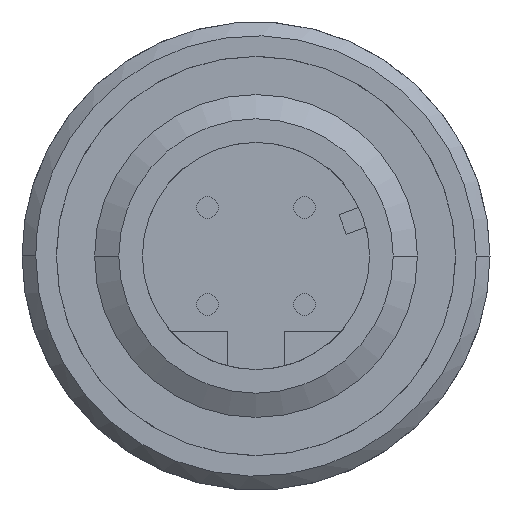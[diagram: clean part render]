
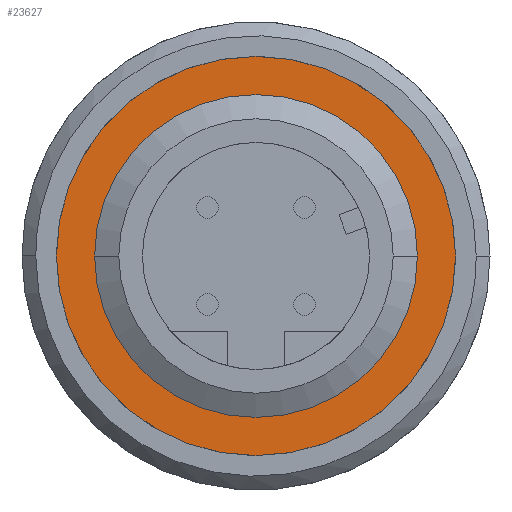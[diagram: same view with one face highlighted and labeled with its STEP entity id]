
A CAD part, front view. The second image highlights one B-rep face of the part: STEP entity #23627.
In plain terms, the highlighted planar face has unit normal (0, -1, 0).
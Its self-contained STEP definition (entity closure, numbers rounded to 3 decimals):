
#14583=CARTESIAN_POINT('',(0.,-6.276,0.));
#14584=DIRECTION('',(0.,1.,0.));
#14585=DIRECTION('',(-1.,0.,0.));
#14586=AXIS2_PLACEMENT_3D('',#14583,#14584,#14585);
#14588=CARTESIAN_POINT('',(0.,-6.276,0.));
#14589=DIRECTION('',(0.,1.,0.));
#14590=DIRECTION('',(1.,0.,0.));
#14591=AXIS2_PLACEMENT_3D('',#14588,#14589,#14590);
#14593=CARTESIAN_POINT('',(0.,-6.276,0.));
#14594=DIRECTION('',(0.,-1.,0.));
#14595=DIRECTION('',(-1.,0.,0.));
#14596=AXIS2_PLACEMENT_3D('',#14593,#14594,#14595);
#14598=CARTESIAN_POINT('',(0.,-6.276,0.));
#14599=DIRECTION('',(0.,-1.,0.));
#14600=DIRECTION('',(1.,0.,0.));
#14601=AXIS2_PLACEMENT_3D('',#14598,#14599,#14600);
#17091=CARTESIAN_POINT('',(7.25,-6.276,0.));
#17092=CARTESIAN_POINT('',(-7.25,-6.276,0.));
#17093=VERTEX_POINT('',#17091);
#17094=VERTEX_POINT('',#17092);
#17095=CARTESIAN_POINT('',(-5.096,-6.276,0.));
#17096=CARTESIAN_POINT('',(5.096,-6.276,0.));
#17097=VERTEX_POINT('',#17095);
#17098=VERTEX_POINT('',#17096);
#23611=CARTESIAN_POINT('',(0.,-6.276,0.));
#23612=DIRECTION('',(0.,1.,0.));
#23613=DIRECTION('',(1.,0.,0.));
#23614=AXIS2_PLACEMENT_3D('',#23611,#23612,#23613);
#23615=PLANE('',#23614);
#23617=ORIENTED_EDGE('',*,*,#23616,.T.);
#23618=ORIENTED_EDGE('',*,*,#23601,.T.);
#23619=EDGE_LOOP('',(#23617,#23618));
#23620=FACE_OUTER_BOUND('',#23619,.F.);
#23622=ORIENTED_EDGE('',*,*,#23621,.T.);
#23624=ORIENTED_EDGE('',*,*,#23623,.T.);
#23625=EDGE_LOOP('',(#23622,#23624));
#23626=FACE_BOUND('',#23625,.F.);
#23627=ADVANCED_FACE('',(#23620,#23626),#23615,.F.);
#14587=CIRCLE('',#14586,7.25);
#14592=CIRCLE('',#14591,7.25);
#14597=CIRCLE('',#14596,5.096);
#14602=CIRCLE('',#14601,5.096);
#23601=EDGE_CURVE('',#17093,#17094,#14592,.T.);
#23616=EDGE_CURVE('',#17094,#17093,#14587,.T.);
#23621=EDGE_CURVE('',#17097,#17098,#14597,.T.);
#23623=EDGE_CURVE('',#17098,#17097,#14602,.T.);
